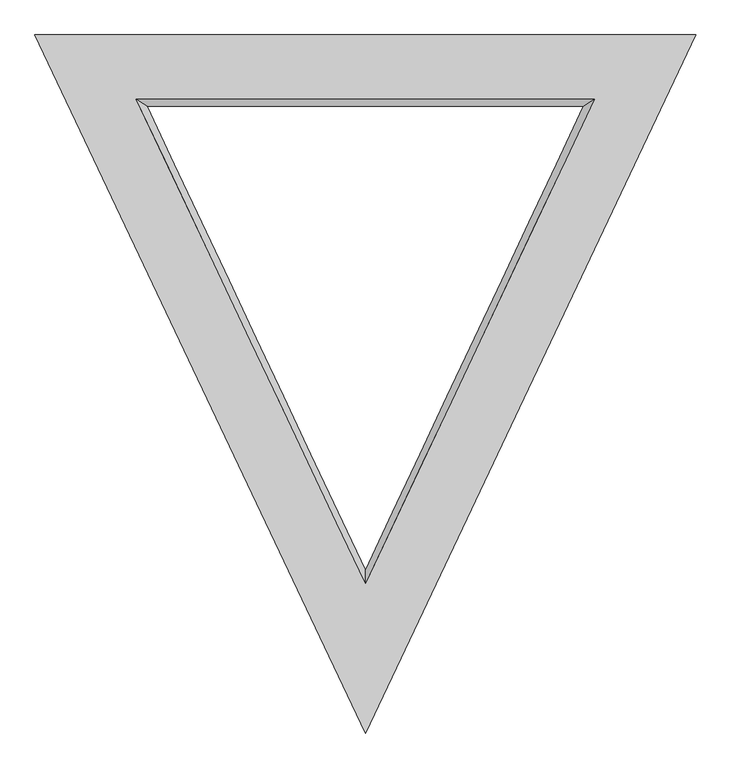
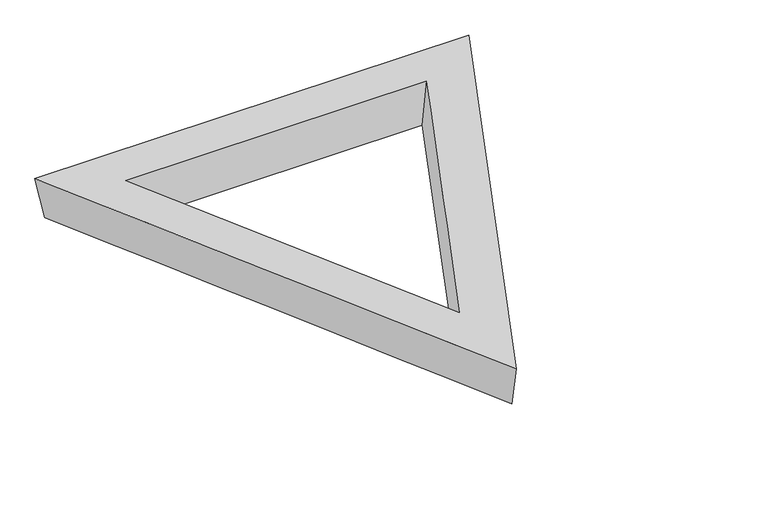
"""IFC4 building model written with IfcOpenShell, lengths in millimetres: plate geometry."""

import ifcopenshell
import ifcopenshell.guid

model = None  # the IFC model being written
_history = None  # IfcOwnerHistory: only IFC2X3 demands one
_inside = {}  # id of a spatial element -> (the spatial element, [elements in it])
_under = {}  # id of a project, library or spatial element -> (it, [spatial elements below it])
_declared = {}  # id of a project -> (the project, [libraries it declares])
_typed = {}  # id of a type object -> (the type object, [elements of that type])
_made_of = {}  # id of a material, layer set ... -> (it, [elements and type objects made of it])


def new_model(schema):
    """Start an empty IFC model of exactly this schema.

    Asked for "IFC4X3", IfcOpenShell would pick the latest addendum, in which some entities
    have other attributes; the version numbers below select the first issue.
    IFC2X3 requires an IfcOwnerHistory on every rooted entity: one is made here for all.
    """
    global model, _history
    if schema == "IFC4X3":
        model = ifcopenshell.file(schema_version=(4, 3, 0, 0))
    else:
        model = ifcopenshell.file(schema=schema)
    _inside.clear()
    _under.clear()
    _declared.clear()
    _typed.clear()
    _made_of.clear()
    _history = None
    if model.schema == "IFC2X3":
        org = make("IfcOrganization", Name="unknown")
        user = make(
            "IfcPersonAndOrganization",
            ThePerson=make("IfcPerson", FamilyName="unknown"),
            TheOrganization=org,
        )
        app = make(
            "IfcApplication",
            ApplicationDeveloper=org,
            Version="unknown",
            ApplicationFullName="unknown",
            ApplicationIdentifier="unknown",
        )
        _history = make(
            "IfcOwnerHistory",
            OwningUser=user,
            OwningApplication=app,
            ChangeAction="ADDED",
            CreationDate=0,
        )
    return model


def make(cls, **values):
    """One entity of the class cls with the attributes given. An attribute that is None is left unset."""
    return model.create_entity(
        cls, **{name: value for name, value in values.items() if value is not None}
    )


def rooted(cls, **values):
    """An entity with a GlobalId (a new one), such as an element, a storey or a relation."""
    return make(cls, GlobalId=ifcopenshell.guid.new(), OwnerHistory=_history, **values)


def si_unit(unit_type, name, prefix=None):
    """IfcSIUnit, for example si_unit("LENGTHUNIT", "METRE", prefix="MILLI")."""
    return make("IfcSIUnit", UnitType=unit_type, Prefix=prefix, Name=name)


def assignment(units):
    """IfcUnitAssignment: the units of a project."""
    return None if units is None else make("IfcUnitAssignment", Units=units)


def point(xyz):
    """IfcCartesianPoint."""
    return None if xyz is None else make("IfcCartesianPoint", Coordinates=xyz)


def direction(xyz):
    """IfcDirection."""
    return None if xyz is None else make("IfcDirection", DirectionRatios=xyz)


def frame(location, z_axis=None, x_axis=None):
    """IfcAxis2Placement3D, a coordinate frame: its origin and axes. An axis left out is left unset."""
    return make(
        "IfcAxis2Placement3D",
        Location=point(location),
        Axis=direction(z_axis),
        RefDirection=direction(x_axis),
    )


def origin():
    """The frame at (0, 0, 0) with its axes left unset."""
    return frame((0.0, 0.0, 0.0))


def place(relative_to, where):
    """IfcLocalPlacement: puts the frame where relative to a parent placement (None: the world)."""
    return make(
        "IfcLocalPlacement", PlacementRelTo=relative_to, RelativePlacement=where
    )


def context(
    kind, dimensions, precision=None, world=None, true_north=None, identifier=None
):
    """IfcGeometricRepresentationContext, for example the 3D "Model" context."""
    return make(
        "IfcGeometricRepresentationContext",
        ContextIdentifier=identifier,
        ContextType=kind,
        CoordinateSpaceDimension=dimensions,
        Precision=precision,
        WorldCoordinateSystem=world,
        TrueNorth=true_north,
    )


def project(units=None, contexts=None):
    """IfcProject with its units and contexts."""
    return rooted(
        "IfcProject",
        Name="project",
        RepresentationContexts=contexts,
        UnitsInContext=assignment(units),
    )


def spatial(cls, under=None, at=None, **own):
    """A site, building, storey or space (cls), placed at a placement, below another one or the project."""
    s = rooted(cls, ObjectPlacement=at, **own)
    if under is not None:
        _under.setdefault(under.id(), (under, []))[1].append(s)
    return s


def shape(context_of_items, identifier, shape_type, items):
    """IfcShapeRepresentation: the items that make up one representation, for example the "Body"."""
    return make(
        "IfcShapeRepresentation",
        ContextOfItems=context_of_items,
        RepresentationIdentifier=identifier,
        RepresentationType=shape_type,
        Items=items,
    )


def source(mapping_origin, context_of_items, identifier, shape_type, items):
    """IfcRepresentationMap: a shape defined once, which mapped items show again and again."""
    return make(
        "IfcRepresentationMap",
        MappingOrigin=mapping_origin,
        MappedRepresentation=shape(context_of_items, identifier, shape_type, items),
    )


def transform(
    local_origin,
    x_axis=None,
    y_axis=None,
    z_axis=None,
    scale=None,
    scale2=None,
    scale3=None,
    uniform=True,
):
    """IfcCartesianTransformationOperator3D, or its non-uniform kind. x_axis, y_axis, z_axis: its Axis1, 2, 3."""
    if uniform:
        return make(
            "IfcCartesianTransformationOperator3D",
            Axis1=direction(x_axis),
            Axis2=direction(y_axis),
            LocalOrigin=point(local_origin),
            Scale=scale,
            Axis3=direction(z_axis),
        )
    return make(
        "IfcCartesianTransformationOperator3DnonUniform",
        Axis1=direction(x_axis),
        Axis2=direction(y_axis),
        LocalOrigin=point(local_origin),
        Scale=scale,
        Axis3=direction(z_axis),
        Scale2=scale2,
        Scale3=scale3,
    )


def mapped(mapping_source, mapping_target):
    """IfcMappedItem: shows the shape of a source again, moved by a transform."""
    return make(
        "IfcMappedItem", MappingSource=mapping_source, MappingTarget=mapping_target
    )


def made_of(thing, what):
    """Note that an element or type object is made of a material, layer set ...; save() writes the relation."""
    if what is not None:
        _made_of.setdefault(what.id(), (what, []))[1].append(thing)
    return thing


def element(
    cls,
    number,
    at=None,
    inside=None,
    cuts=None,
    type_object=None,
    material=None,
    context=None,
    identifier="Body",
    shape_type=None,
    held_by="IfcProductDefinitionShape",
    body=None,
    shapes=None,
    **own,
):
    """One element of the class cls, such as IfcWall. Its Tag is "e" and its number.

    at: its placement. inside: the storey or other place that contains it. cuts: it is an
    opening in that element (IfcRelVoidsElement). A single representation is given by context,
    identifier, shape_type and body (its items); several are given by shapes. held_by: the class
    of the entity that holds the representations. save() writes the other relations.
    """
    e = rooted(cls, Tag="e%d" % number, ObjectPlacement=at, **own)
    if body is not None:
        shapes = [shape(context, identifier, shape_type, body)]
    if shapes is not None:
        e.Representation = make(held_by, Representations=shapes)
    if inside is not None:
        _inside.setdefault(inside.id(), (inside, []))[1].append(e)
    if cuts is not None:
        rooted(
            "IfcRelVoidsElement", RelatingBuildingElement=cuts, RelatedOpeningElement=e
        )
    if type_object is not None:
        _typed.setdefault(type_object.id(), (type_object, []))[1].append(e)
    return made_of(e, material)


def aggregate(whole, parts):
    """IfcRelAggregates: a whole, such as a stair, and the parts it consists of."""
    return rooted("IfcRelAggregates", RelatingObject=whole, RelatedObjects=parts)


def save(model, path):
    """Write the relations noted so far, then the file.

    IfcRelAggregates (storeys below a building ...), IfcRelContainedInSpatialStructure (elements
    in a storey), IfcRelDefinesByType, IfcRelAssociatesMaterial and IfcRelDeclares: one each for
    every whole, place, type object, material and project.
    """
    for whole, parts in _under.values():
        aggregate(whole, parts)
    for where, things in _inside.values():
        rooted(
            "IfcRelContainedInSpatialStructure",
            RelatedElements=things,
            RelatingStructure=where,
        )
    for kind, things in _typed.values():
        rooted("IfcRelDefinesByType", RelatedObjects=things, RelatingType=kind)
    for what, things in _made_of.values():
        rooted("IfcRelAssociatesMaterial", RelatedObjects=things, RelatingMaterial=what)
    for by, libraries in _declared.values():
        rooted("IfcRelDeclares", RelatingContext=by, RelatedDefinitions=libraries)
    model.write(path)


def plane_surface(at):
    """IfcPlane: the flat surface through the origin of the frame at, square to its z axis."""
    return make("IfcPlane", Position=at)


def spline_surface(u_degree, v_degree, points, u_multiplicities, v_multiplicities, u_knots, v_knots, weights=None):
    """IfcBSplineSurfaceWithKnots; with weights, IfcRationalBSplineSurfaceWithKnots. points: one row for each step in u."""
    own = dict(
        UDegree=u_degree,
        VDegree=v_degree,
        ControlPointsList=[[point(p) for p in row] for row in points],
        SurfaceForm="UNSPECIFIED",
        UClosed=False,
        VClosed=False,
        SelfIntersect=False,
        UMultiplicities=u_multiplicities,
        VMultiplicities=v_multiplicities,
        UKnots=u_knots,
        VKnots=v_knots,
        KnotSpec="UNSPECIFIED",
    )
    if weights is None:
        return make("IfcBSplineSurfaceWithKnots", **own)
    return make("IfcRationalBSplineSurfaceWithKnots", WeightsData=weights, **own)


def advanced_brep(points, edges, surfaces, faces):
    """IfcAdvancedBrep: a solid bounded by faces that lie on surfaces and meet in shared edges.

    An edge is (start, end): straight between two places in points (the first is 0);
    or (start, end, curve); or (start, end, curve, False) where it runs against its curve.
    A face is (place in surfaces, loops), or (place, loops, False) where it looks against
    its surface's normal. A loop lists edges by number (the first is 1), with a minus sign
    where the edge is run from its end to its start. The first loop is the outer one.
    """
    corners = [point(p) for p in points]
    vertices = [make("IfcVertexPoint", VertexGeometry=c) for c in corners]
    made = []
    for start, end, *more in edges:
        made.append(
            make(
                "IfcEdgeCurve",
                EdgeStart=vertices[start],
                EdgeEnd=vertices[end],
                EdgeGeometry=more[0] if more else make("IfcPolyline", Points=[corners[start], corners[end]]),
                SameSense=more[1] if len(more) > 1 else True,
            )
        )
    hull = []
    for where, loops, *sense in faces:
        bounds = []
        for j, loop in enumerate(loops):
            ring = [make("IfcOrientedEdge", EdgeElement=made[abs(k) - 1], Orientation=k > 0) for k in loop]
            bounds.append(
                make(
                    "IfcFaceOuterBound" if j == 0 else "IfcFaceBound",
                    Bound=make("IfcEdgeLoop", EdgeList=ring),
                    Orientation=True,
                )
            )
        hull.append(make("IfcAdvancedFace", Bounds=bounds, FaceSurface=surfaces[where], SameSense=sense[0] if sense else True))
    return make("IfcAdvancedBrep", Outer=make("IfcClosedShell", CfsFaces=hull))


def plate_dfa6cd24(model_context):
    return source(origin(), model_context, "Body", "AdvancedBrep", [
        advanced_brep(
        [(5405.1466992, 5592.8821835, 0.0), (5371.1283582, 5615.0364926, 199.0149123), (6096.0, 4084.5477873, 199.4716329), (6096.0, 4125.0079892, 0.0), (6820.8716418, 5615.0364926, 199.0149123), (6786.8533008, 5592.8821835, 0.0), (6096.0, 3647.8356331, 0.0), (7107.0697675, 5796.0821835, 0.0), (7141.9499004, 5818.2364836, 198.9542744), (6096.0, 3609.8254815, 199.6132971), (5084.9302325, 5796.0821835, 0.0), (5050.0500996, 5818.2364836, 198.9542744)],
        [
            (0, 1),
            (1, 2),
            (2, 3),
            (3, 0),
            (2, 4),
            (4, 5),
            (5, 3),
            (0, 5),
            (4, 1),
            (6, 7),
            (7, 8),
            (8, 9),
            (9, 6),
            (7, 10),
            (10, 11),
            (11, 8),
            (9, 11),
            (10, 6),
        ],
        [
            spline_surface(1, 1, [[(5405.1466992, 5592.8821835, 0.0), (6096.0, 4125.0079892, 0.0)], [(5371.1283582, 5615.0364926, 199.0149123), (6096.0, 4084.5477873, 199.4716329)]], [2, 2], [2, 2], [0.0, 1.0], [0.0, 1.0]),
            spline_surface(1, 1, [[(6096.0, 4125.0079892, 0.0), (6786.8533008, 5592.8821835, 0.0)], [(6096.0, 4084.5477873, 199.4716329), (6820.8716418, 5615.0364926, 199.0149123)]], [2, 2], [2, 2], [0.0, 1.0], [0.0, 1.0]),
            plane_surface(frame((6096.0, 5592.8821835, 0.0), z_axis=(0.0, -0.9938609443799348, 0.11063644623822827), x_axis=(-1.0, 0.0, -6.6250758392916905e-12))),
            spline_surface(1, 1, [[(6096.0, 3647.8356331, 0.0), (6096.0, 3609.8254815, 199.6132971)], [(7107.0697675, 5796.0821835, 0.0), (7141.9499004, 5818.2364836, 198.9542744)]], [2, 2], [2, 2], [0.0, 1.0], [0.0, 1.0]),
            plane_surface(frame((6096.0, 5796.0821835, 0.0), z_axis=(0.0, 0.9938572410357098, -0.11066970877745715), x_axis=(-1.0, 0.0, -6.625033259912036e-12))),
            spline_surface(1, 1, [[(5084.9302325, 5796.0821835, 0.0), (5050.0500996, 5818.2364836, 198.9542744)], [(6096.0, 3647.8356331, 0.0), (6096.0, 3609.8254815, 199.6132971)]], [2, 2], [2, 2], [0.0, 1.0], [0.0, 1.0]),
            plane_surface(frame((6096.0, 5082.0994829, 199.1739487), z_axis=(-6.6250329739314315e-12, 0.0002984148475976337, 0.9999999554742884), x_axis=(0.42803969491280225, -0.9037598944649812, 0.00026969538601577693))),
            plane_surface(frame((6096.0, 5080.0, 0.0), z_axis=(6.624949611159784e-12, 0.0, -1.0), x_axis=(-0.42584193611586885, 0.9047975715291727, -2.8218761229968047e-12))),
        ],
        [
            (0, [[1, 2, 3, 4]]),
            (1, [[-3, 5, 6, 7]]),
            (2, [[-1, 8, -6, 9]]),
            (3, [[10, 11, 12, 13]]),
            (4, [[-11, 14, 15, 16]]),
            (5, [[-13, 17, -15, 18]]),
            (6, [[-12, -16, -17], [-2, -9, -5]]),
            (7, [[-10, -18, -14], [-4, -7, -8]]),
        ],
    ),
    ])


if __name__ == "__main__":
    model = new_model("IFC4")
    model_context = context("Model", 3, world=origin())
    ifc_project = project(units=[si_unit("LENGTHUNIT", "METRE", prefix="MILLI")], contexts=[model_context])
    site = spatial("IfcSite", under=ifc_project)
    building = spatial("IfcBuilding", under=site)
    placement = place(None, origin())
    plate_shape = plate_dfa6cd24(model_context)
    element("IfcPlate", 1, ObjectType="tn_cpanel_patbase_triangle_flat_seamless_frame_02_cylinder : tn_cpanel_pattern_mullion_t8\"xh8\"", at=placement, inside=building, context=model_context, shape_type="MappedRepresentation", body=[
        mapped(plate_shape, transform((0.0, 0.0, 0.0), x_axis=(1.0, 0.0, 0.0), y_axis=(0.0, 1.0, 0.0), z_axis=(0.0, 0.0, 1.0))),
    ])
    save(model, "model.ifc")
